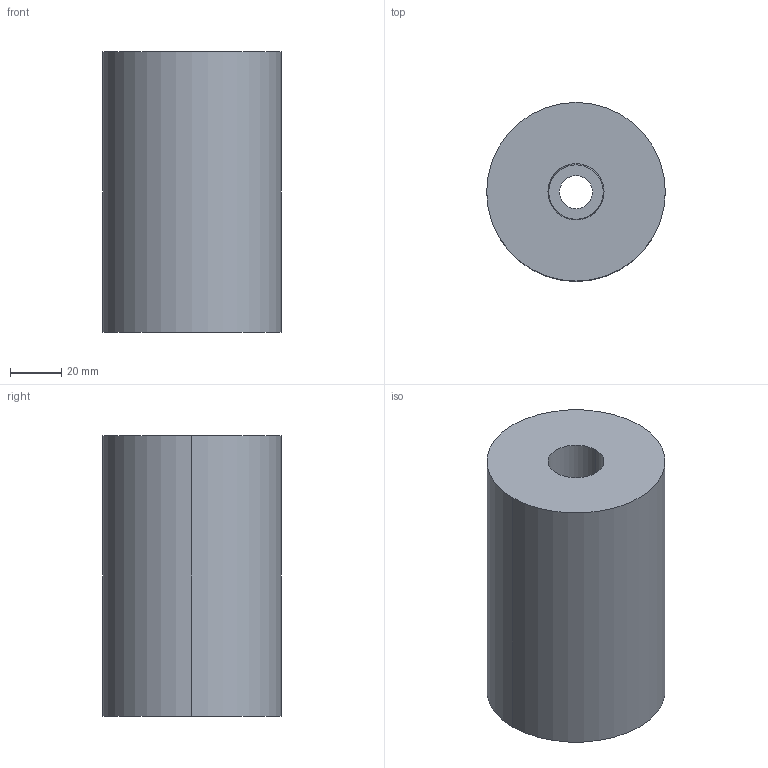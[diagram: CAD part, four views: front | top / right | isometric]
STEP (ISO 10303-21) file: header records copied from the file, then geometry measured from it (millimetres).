
FILE_DESCRIPTION(/* description */ (''),/* implementation_level */ '2;1');
FILE_NAME(/* name */ '3d_est7022110_07024_r00.stp',/* time_stamp */ '2011-01-10T14:15:39+09:00',/* author */ ('MISUMI'),/* organization */ (''),/* preprocessor_version */ 'ST-DEVELOPER v11',/* originating_system */ 'UGS - NX 5.0',/* authorisation */ '');
FILE_SCHEMA (('CONFIG_CONTROL_DESIGN'));
Length unit declared in the file: millimetre
Products named in the file (1): 3d_est7022110_07024_r00
Bounding box: 70 x 70 x 110 mm (x, y, z)
Volume: 392423.2 mm3; surface area: 43432.4 mm2
Topology: 2 solids, 2 shells, 19 faces, 38 edges, 24 vertices
Faces by surface type: cylinder 10, plane 5, cone 4
Entity records: 596 total; most frequent: DIRECTION 102, CARTESIAN_POINT 82, ORIENTED_EDGE 76, AXIS2_PLACEMENT_3D 44, EDGE_CURVE 38, EDGE_LOOP 24, VERTEX_POINT 24, CIRCLE 24
